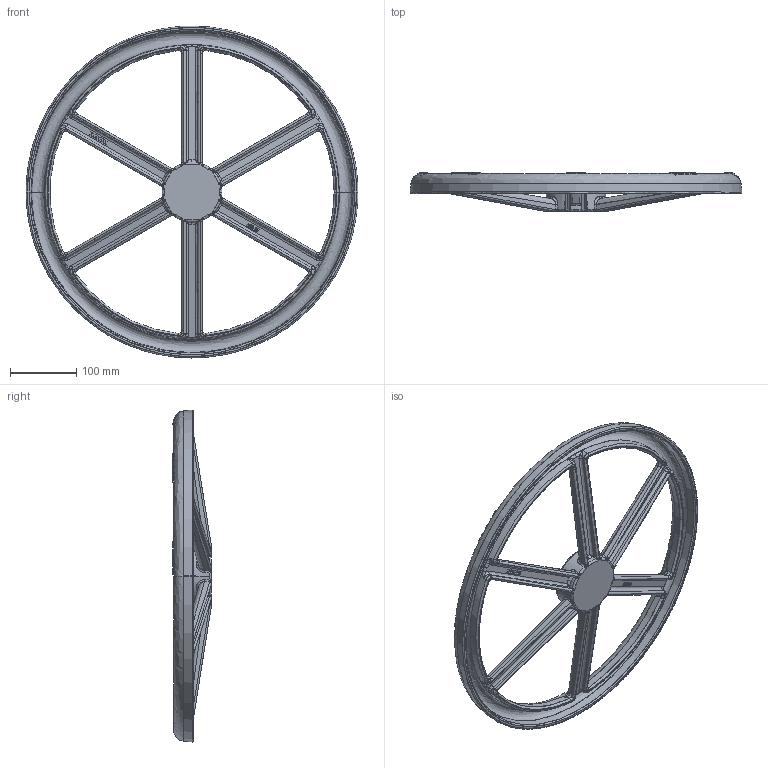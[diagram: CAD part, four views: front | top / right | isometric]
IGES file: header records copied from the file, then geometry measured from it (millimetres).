
Start section: SolidWorks IGES file using analytic representation for surfaces
Global section: file name: C:\work-andy\PCF360\S08\0825002000.IGS; native system: SolidWorks 2008; preprocessor: SolidWorks 2008; author: ch_anji; date: 091127.144925; units: millimetre
Bounding box: 499.62 x 58.5 x 499.62 mm (x, y, z)
Surface area: 336246.8 mm2 (no closed solid volume)
Topology: 0 solids, 0 shells, 867 faces, 11031 edges, 10995 vertices
Faces by surface type: bspline 768, revolution 99
